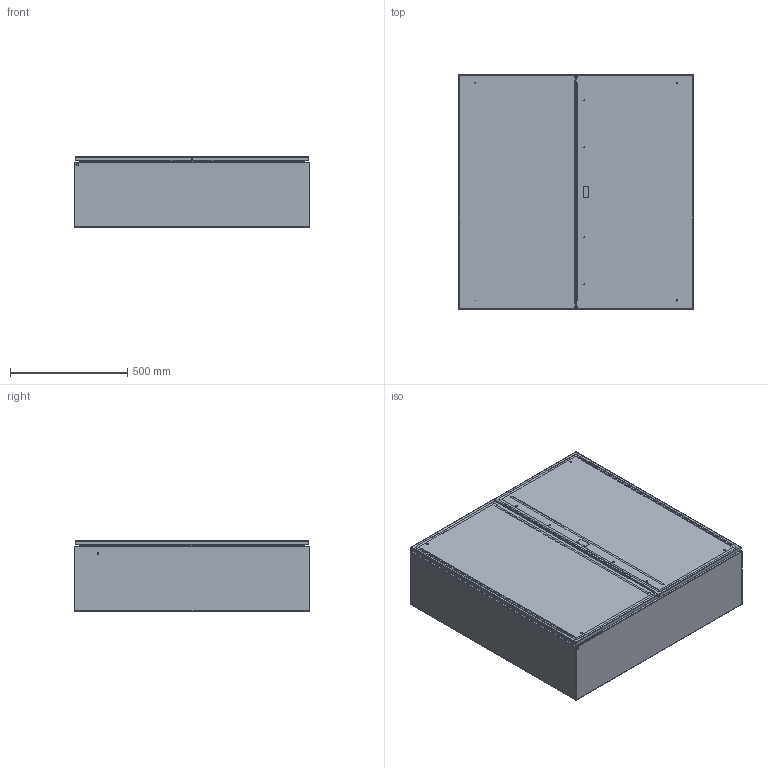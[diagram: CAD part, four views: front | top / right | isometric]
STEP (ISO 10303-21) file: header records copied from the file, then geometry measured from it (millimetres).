
FILE_DESCRIPTION (( 'STEP AP203' ), '1' );
FILE_NAME ('CPRO007_semplificato.STEP', '2021-01-08T11:56:58', ( '' ), ( '' ), 'SwSTEP 2.0', 'SolidWorks 2019', '' );
FILE_SCHEMA (( 'CONFIG_CONTROL_DESIGN' ));
Length unit declared in the file: millimetre
Products named in the file (24): CPRO007_03008030301_04; CPRO007_03008010506_09; CPRO007_semplificato; CPRO007_ECOR_Gomma_porta_IB_04; CPRO007_04008030301_04; CPRO007_00008030004_15; CPRO007_Dado esagonale flangiato zigrinato DIN6923_Dado  M8 flangiato-zigrinato DIN6923; CPRO007_PERNO FILETTATO A SALDARE DIN32501_M6x15_ramato; CPRO007_05008010504_09; CPRO007_06008030301_04; CPRO007_05008030201_04; CPRO007_00008010102_01; CPRO007_03008010507_05; CPRO007_05008030301_04; CPRO007_07008030201_04; CPRO007_07008030301_04; CPRO007_03008030201_04; CPRO007_03008010508_05; CPRO007_04008030201_04; CPRO007_ECOR_Gomma_porta_CB_04; CPRO007_04008010504_09; CPRO007_07008040101_25; CPRO007_06008030201_04; CPRO007_03008040101_25
Assembly tree (37 placements, depth 6):
  CPRO007_semplificato
    CPRO007_05008010504_09
      CPRO007_04008010504_09
        CPRO007_03008010506_09
        CPRO007_03008010507_05
        CPRO007_03008010508_05
        CPRO007_PERNO FILETTATO A SALDARE DIN32501_M6x15_ramato  x2
    CPRO007_07008040101_25
      CPRO007_03008040101_25
      CPRO007_Dado esagonale flangiato zigrinato DIN6923_Dado  M8 flangiato-zigrinato DIN6923  x4
    CPRO007_07008030201_04
      CPRO007_06008030201_04
        CPRO007_05008030201_04
          CPRO007_04008030201_04
            CPRO007_03008030201_04
            CPRO007_00008010102_01  x6
            CPRO007_00008030004_15  x2
        CPRO007_ECOR_Gomma_porta_IB_04
    CPRO007_07008030301_04
      CPRO007_06008030301_04
        CPRO007_05008030301_04
          CPRO007_04008030301_04
            CPRO007_03008030301_04
            CPRO007_00008010102_01  x2
            CPRO007_00008030004_15  x2
        CPRO007_ECOR_Gomma_porta_CB_04
Bounding box: 1000 x 1000 x 300 mm (x, y, z)
Volume: 7010291.8 mm3; surface area: 8939160.4 mm2
Topology: 82 solids, 82 shells, 1539 faces, 3582 edges, 2214 vertices
Faces by surface type: cylinder 674, plane 602, bspline 108, cone 88, torus 67
Entity records: 29682 total; most frequent: CARTESIAN_POINT 6479, DIRECTION 4272, ORIENTED_EDGE 4120, EDGE_CURVE 2060, AXIS2_PLACEMENT_3D 1597, VERTEX_POINT 1262, LINE 1078, VECTOR 1078
